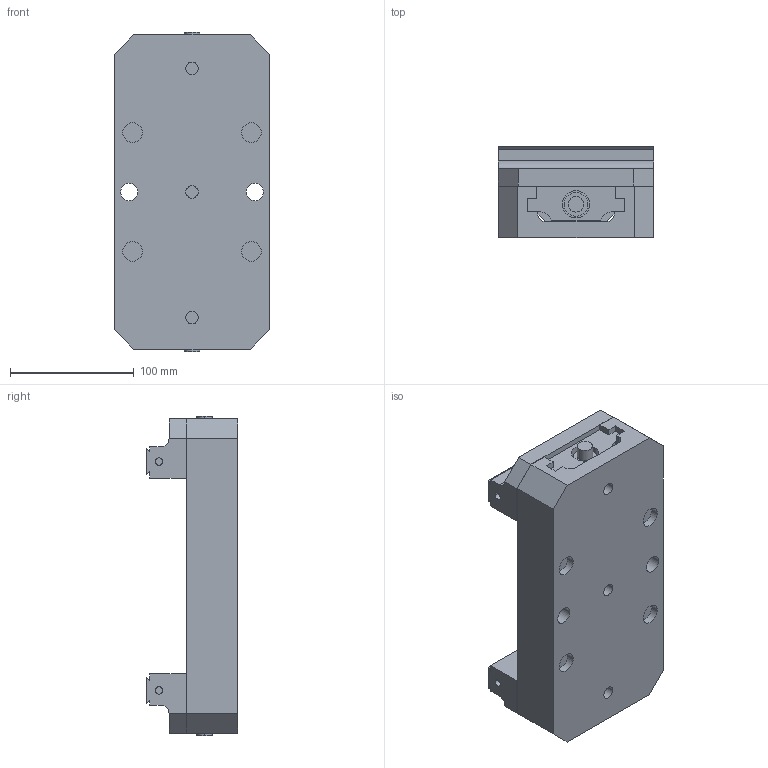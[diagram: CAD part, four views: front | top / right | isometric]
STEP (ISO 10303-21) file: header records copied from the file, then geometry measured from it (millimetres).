
FILE_DESCRIPTION (( 'STEP AP214' ), '1' );
FILE_NAME ('D_V510X.STEP', '2024-11-25T22:58:20', ( '' ), ( '' ), 'SwSTEP 2.0', 'SolidWorks 2024', '' );
FILE_SCHEMA (( 'AUTOMOTIVE_DESIGN' ));
Length unit declared in the file: millimetre
Products named in the file (4): D_V510X; SALES_V562X-2; SALES_V562X-5; D_V510X-1
Assembly tree (5 placements, depth 2):
  D_V510X
    D_V510X-1
    SALES_V562X-2  x2
    SALES_V562X-5  x2
Bounding box: 125.73 x 73.64 x 258.32 mm (x, y, z)
Volume: 1233437.2 mm3; surface area: 221059.6 mm2
Topology: 5 solids, 5 shells, 305 faces, 718 edges, 476 vertices
Faces by surface type: plane 167, cylinder 138
Entity records: 5762 total; most frequent: DIRECTION 1021, CARTESIAN_POINT 986, ORIENTED_EDGE 914, EDGE_CURVE 457, AXIS2_PLACEMENT_3D 369, VERTEX_POINT 302, LINE 283, VECTOR 283
